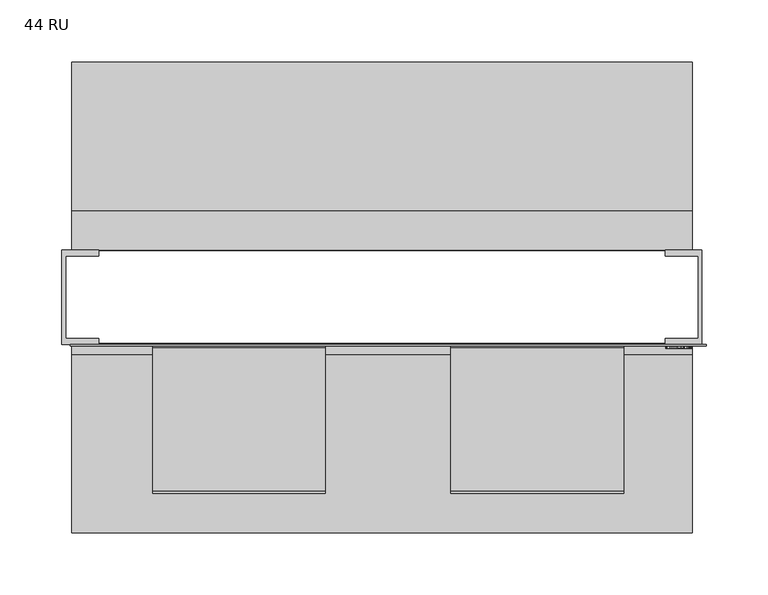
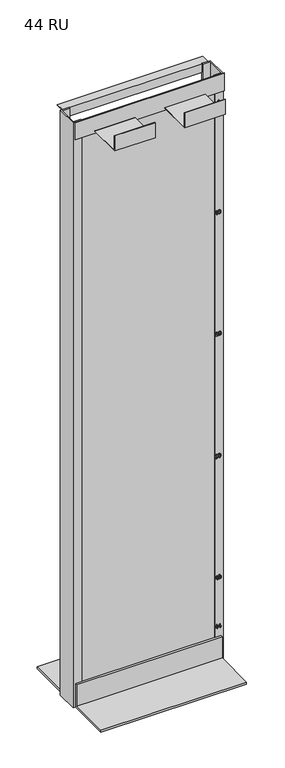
"""IFC4 building model written with IfcOpenShell, lengths in millimetres: electric appliance geometry, Rack-2_Post-Corning-CDF : 44 RU."""

from ifc_helpers import new_model, si_unit, frame, origin, origin_with_axes, place, context, project, spatial, polyline, outline, extrude, source, transform, mapped, element, save


def electric_appliance_44_ru_275b943b(model_context):
    return source(origin(), model_context, "Body", "SweptSolid", [
        extrude(outline(polyline([(262.255, -72.0668001), (-252.095, -72.0668001), (-252.095, -70.5428001), (262.255, -70.5428001), (262.255, -72.0668001)])), frame((0.0, 0.0, 2069.973), z_axis=(0.0, 0.0, 1.0), x_axis=(1.0, 0.0, 0.0)), (0.0, 0.0, 1.0), 63.5),
        extrude(outline(polyline([(-258.826, 5.6571999), (-229.108, 5.6571999), (-229.108, 0.775735), (-255.651, 0.775735), (-255.651, -65.7168001), (-229.108, -65.7168001), (-229.108, -70.5428001), (-258.826, -70.5428001), (-258.826, 5.6571999)])), origin_with_axes(), (0.0, 0.0, 1.0), 2133.473),
        extrude(outline(polyline([(258.826, 5.6571999), (258.826, -70.5428001), (229.108, -70.5428001), (229.108, -65.7168001), (255.651, -65.7168001), (255.651, 0.8311999), (229.108, 0.8311999), (229.108, 5.6571999), (258.826, 5.6571999)])), origin_with_axes(), (0.0, 0.0, 1.0), 2133.473),
        extrude(outline(polyline([(5.6571999, 2132.203), (37.4071999, 2132.203), (37.4071999, 2129.028), (8.8321999, 2129.028), (8.8321999, 2101.4189334), (5.6571999, 2101.4189334), (5.6571999, 2132.203)])), frame((-250.825, 0.0, 0.0), z_axis=(1.0, 0.0, 0.0), x_axis=(0.0, 1.0, 0.0)), (0.0, 0.0, 1.0), 501.65),
        extrude(outline(polyline([(158.0571999, 7.9248), (158.0571999, 0.0), (5.6571999, 0.0), (5.6571999, 85.7158874), (13.5819999, 85.7158874), (13.5819999, 7.9248), (158.0571999, 7.9248)])), frame((-250.825, 0.0, 0.0), z_axis=(1.0, 0.0, 0.0), x_axis=(0.0, 1.0, 0.0)), (0.0, 0.0, 1.0), 501.65),
        extrude(outline(polyline([(-222.9428001, 7.9248), (-78.4676001, 7.9248), (-78.4676001, 85.7158874), (-70.5428001, 85.7158874), (-70.5428001, 0.0), (-222.9428001, 0.0), (-222.9428001, 7.9248)])), frame((-250.825, 0.0, 0.0), z_axis=(1.0, 0.0, 0.0), x_axis=(0.0, 1.0, 0.0)), (0.0, 0.0, 1.0), 501.65),
        extrude(outline(polyline([(-191.1928001, 2078.609), (-191.1928001, 2133.473), (-189.6688001, 2133.473), (-189.6688001, 2080.133), (-73.6290976, 2080.133), (-72.0668001, 2080.133), (-72.0668001, 2078.609), (-191.1928001, 2078.609)])), frame((-185.42, 0.0, 0.0), z_axis=(1.0, 0.0, 0.0), x_axis=(0.0, 1.0, 0.0)), (0.0, 0.0, 1.0), 139.7),
        extrude(outline(polyline([(-191.1928001, 2078.609), (-191.1928001, 2133.473), (-189.6688001, 2133.473), (-189.6688001, 2080.133), (-73.6231243, 2080.133), (-72.0668001, 2080.133), (-72.0668001, 2078.609), (-191.1928001, 2078.609)])), frame((55.88, 0.0, 0.0), z_axis=(1.0, 0.0, 0.0), x_axis=(0.0, 1.0, 0.0)), (0.0, 0.0, 1.0), 139.7),
        extrude(outline(polyline([(117.5823071, 235.9481591), (117.5823071, 237.7066206), (120.8794225, 237.7066206), (120.8794225, 239.4650821), (122.637884, 239.4650821), (122.637884, 237.7066206), (131.4301917, 236.3877744), (122.637884, 229.573736), (120.8794225, 229.573736), (120.8794225, 235.9481591), (117.5823071, 235.9481591)]), holes=[polyline([(122.637884, 235.9481591), (122.637884, 231.737468), (128.0712554, 235.9481591), (122.637884, 235.9481591)])]), frame((0.0, -73.7178001, 0.0), z_axis=(0.0, 1.0, 0.0), x_axis=(0.0, 0.0, 1.0)), (0.0, 0.0, 1.0), 3.175),
        extrude(outline(polyline([(117.5823071, 246.718736), (117.5823071, 248.4771975), (120.8794225, 248.4771975), (120.8794225, 250.2356591), (122.637884, 250.2356591), (122.637884, 248.4771975), (131.4301917, 247.1583514), (122.637884, 240.3443129), (120.8794225, 240.3443129), (120.8794225, 246.718736), (117.5823071, 246.718736)]), holes=[polyline([(122.637884, 246.718736), (122.637884, 242.5080449), (128.0712554, 246.718736), (122.637884, 246.718736)])]), frame((0.0, -73.7178001, 0.0), z_axis=(0.0, 1.0, 0.0), x_axis=(0.0, 0.0, 1.0)), (0.0, 0.0, 1.0), 3.175),
        extrude(outline(polyline([(295.9737177, 235.8545652), (295.9737177, 237.6130267), (299.2708331, 237.6130267), (299.2708331, 239.3714882), (301.0292946, 239.3714882), (301.0292946, 237.6130267), (309.8216023, 236.2941805), (301.0292946, 229.4801421), (299.2708331, 229.4801421), (299.2708331, 235.8545652), (295.9737177, 235.8545652)]), holes=[polyline([(301.0292946, 235.8545652), (301.0292946, 231.6438741), (306.462666, 235.8545652), (301.0292946, 235.8545652)])]), frame((0.0, -73.7178001, 0.0), z_axis=(0.0, 1.0, 0.0), x_axis=(0.0, 0.0, 1.0)), (0.0, 0.0, 1.0), 3.175),
        extrude(outline(polyline([(302.8942255, 240.9101421), (297.0933631, 242.3114161), (295.75391, 245.5261036), (296.5249542, 248.1002578), (298.8638454, 249.6303254), (302.8942255, 250.1420652), (306.1999271, 249.8226571), (308.2812312, 248.9983783), (309.5880566, 247.5799317), (310.04141, 245.5261036), (309.2755176, 242.962253), (306.9417781, 241.4270336), (302.8942255, 240.9101421)]), holes=[polyline([(302.89766, 242.6686036), (307.3418968, 243.5203584), (308.2829485, 245.5054966), (307.2148205, 247.5868007), (302.89766, 248.3836036), (298.5341339, 247.5593248), (297.5123715, 245.5261036), (298.5306994, 243.4928825), (302.89766, 242.6686036)])]), frame((0.0, -73.7178001, 0.0), z_axis=(0.0, 1.0, 0.0), x_axis=(0.0, 0.0, 1.0)), (0.0, 0.0, 1.0), 3.175),
        extrude(outline(polyline([(742.3213941, 229.6224477), (739.4673286, 231.0202872), (738.3648556, 234.1044639), (739.6562258, 237.5080487), (742.8022234, 238.8543708), (745.0895972, 238.1812097), (746.2916705, 236.2647614), (747.4559644, 237.7072494), (749.0770461, 238.1949477), (750.8509629, 237.6814907), (752.1698091, 236.1977887), (752.6523556, 234.076988), (751.6735245, 231.2813089), (748.9156249, 229.8422554), (748.6958172, 231.6007169), (750.3443749, 232.4627752), (750.8938941, 234.1388089), (748.9740113, 236.4364862), (747.4216195, 235.5503864), (746.9373556, 233.2733161), (745.3712258, 234.3105336), (744.6516991, 236.3094098), (742.8331339, 237.0959092), (740.9029476, 236.3025408), (740.1233172, 234.1662848), (740.6900089, 232.3511541), (742.5412018, 231.3809092), (742.3213941, 229.6224477)])), frame((0.0, -73.7178001, 0.0), z_axis=(0.0, 1.0, 0.0), x_axis=(0.0, 0.0, 1.0)), (0.0, 0.0, 1.0), 3.175),
        extrude(outline(polyline([(745.5051711, 240.3930246), (739.7043088, 241.7942987), (738.3648556, 245.0089862), (739.1358998, 247.5831403), (741.474791, 249.1132079), (745.5051711, 249.6249477), (748.8108728, 249.3055396), (750.8921769, 248.4812608), (752.1990023, 247.0628143), (752.6523556, 245.0089862), (751.8864632, 242.4451355), (749.5527237, 240.9099161), (745.5051711, 240.3930246)]), holes=[polyline([(745.5086056, 242.1514862), (749.9528424, 243.003241), (750.8938941, 244.9883792), (749.8257661, 247.0696833), (745.5086056, 247.8664862), (741.1450795, 247.0422073), (740.1233172, 245.0089862), (741.141645, 242.975765), (745.5086056, 242.1514862)])]), frame((0.0, -73.7178001, 0.0), z_axis=(0.0, 1.0, 0.0), x_axis=(0.0, 0.0, 1.0)), (0.0, 0.0, 1.0), 3.175),
        extrude(outline(polyline([(1185.6451364, 239.5120906), (1186.5398224, 233.3986892), (1188.2313113, 235.4216069), (1190.6406096, 237.9408091), (1192.3647262, 238.9797439), (1194.0321736, 239.2922829), (1196.8278527, 238.1331408), (1197.9543671, 234.985426), (1196.9411911, 231.8480146), (1193.9978287, 230.4999752), (1193.778021, 232.2584368), (1195.553655, 232.9985705), (1196.1959056, 234.9476465), (1195.5381998, 236.8177292), (1193.9257043, 237.5338214), (1191.9336971, 236.774798), (1189.0040727, 233.7387042), (1186.9656998, 231.5371928), (1183.8866748, 230.2801676), (1183.8866748, 239.5120906), (1185.6451364, 239.5120906)])), frame((0.0, -73.7178001, 0.0), z_axis=(0.0, 1.0, 0.0), x_axis=(0.0, 0.0, 1.0)), (0.0, 0.0, 1.0), 3.175),
        extrude(outline(polyline([(1190.8071827, 241.2705522), (1185.0063203, 242.6718262), (1183.6668671, 245.8865137), (1184.4379113, 248.4606679), (1186.7768025, 249.9907355), (1190.8071827, 250.5024752), (1194.1128843, 250.1830672), (1196.1941884, 249.3587883), (1197.5010138, 247.9403418), (1197.9543671, 245.8865137), (1197.1884747, 243.322663), (1194.8547352, 241.7874437), (1190.8071827, 241.2705522)]), holes=[polyline([(1190.8106171, 243.0290137), (1195.2548539, 243.8807685), (1196.1959056, 245.8659067), (1195.1277776, 247.9472108), (1190.8106171, 248.7440137), (1186.447091, 247.9197349), (1185.4253287, 245.8865137), (1186.4436565, 243.8532926), (1190.8106171, 243.0290137)])]), frame((0.0, -73.7178001, 0.0), z_axis=(0.0, 1.0, 0.0), x_axis=(0.0, 0.0, 1.0)), (0.0, 0.0, 1.0), 3.175),
        extrude(outline(polyline([(1627.8234635, 235.9294872), (1641.8911558, 234.7961038), (1640.0193559, 233.2316912), (1638.3742327, 230.6541026), (1636.711937, 230.6541026), (1637.5997541, 232.5052955), (1638.7863721, 234.1710257), (1627.8234635, 234.1710257), (1627.8234635, 235.9294872)])), frame((0.0, -73.7178001, 0.0), z_axis=(0.0, 1.0, 0.0), x_axis=(0.0, 0.0, 1.0)), (0.0, 0.0, 1.0), 3.175),
        extrude(outline(polyline([(1634.7439713, 240.1058333), (1628.9431089, 241.5071074), (1627.6036558, 244.7217949), (1628.3747, 247.295949), (1630.7135912, 248.8260166), (1634.7439713, 249.3377564), (1638.0496729, 249.0183484), (1640.130977, 248.1940695), (1641.4378024, 246.775623), (1641.8911558, 244.7217949), (1641.1252634, 242.1579442), (1638.7915239, 240.6227249), (1634.7439713, 240.1058333)]), holes=[polyline([(1634.7474058, 241.8642949), (1639.1916426, 242.7160497), (1640.1326943, 244.7011879), (1639.0645663, 246.782492), (1634.7474058, 247.5792949), (1630.3838797, 246.755016), (1629.3621173, 244.7217949), (1630.3804452, 242.6885737), (1634.7474058, 241.8642949)])]), frame((0.0, -73.7178001, 0.0), z_axis=(0.0, 1.0, 0.0), x_axis=(0.0, 0.0, 1.0)), (0.0, 0.0, 1.0), 3.175),
        extrude(outline(polyline([(2028.697906, 244.6586145), (2042.7655983, 243.5252311), (2040.8937984, 241.9608185), (2039.2486752, 239.3832299), (2037.5863795, 239.3832299), (2038.4741965, 241.2344228), (2039.6608146, 242.900153), (2028.697906, 242.900153), (2028.697906, 244.6586145)])), frame((0.0, -73.7178001, 0.0), z_axis=(0.0, 1.0, 0.0), x_axis=(0.0, 0.0, 1.0)), (0.0, 0.0, 1.0), 3.175),
        extrude(outline(polyline([(229.108, -70.5428001), (-229.108, -70.5428001), (-229.108, -69.7490501), (229.108, -69.7490501), (229.108, -70.5428001)])), origin_with_axes(), (0.0, 0.0, 1.0), 2133.473),
    ])


if __name__ == "__main__":
    model = new_model("IFC4")
    model_context = context("Model", 3, world=origin())
    ifc_project = project(units=[si_unit("LENGTHUNIT", "METRE", prefix="MILLI")], contexts=[model_context])
    site = spatial("IfcSite", under=ifc_project)
    building = spatial("IfcBuilding", under=site)
    placement = place(None, origin())
    electric_appliance_44_ru_shape = electric_appliance_44_ru_275b943b(model_context)
    element("IfcElectricAppliance", 1, ObjectType="Rack-2_Post-Corning-CDF : 44 RU", at=placement, inside=building, context=model_context, shape_type="MappedRepresentation", body=[
        mapped(electric_appliance_44_ru_shape, transform((0.0, 0.0, 0.0), x_axis=(1.0, 0.0, 0.0), y_axis=(0.0, 1.0, 0.0), z_axis=(0.0, 0.0, 1.0))),
    ])
    save(model, "model.ifc")
